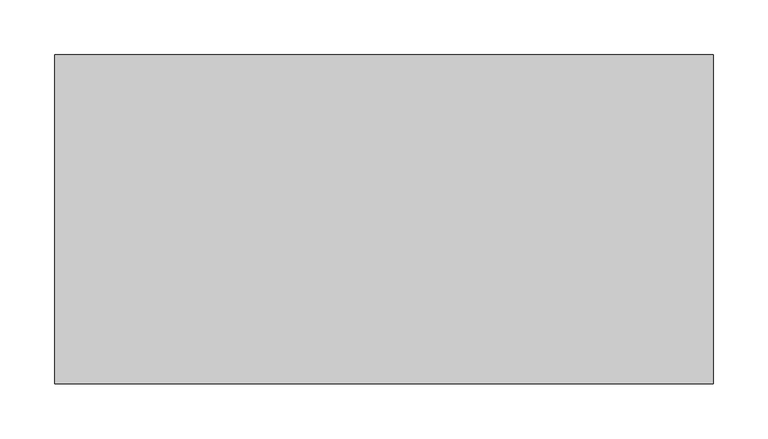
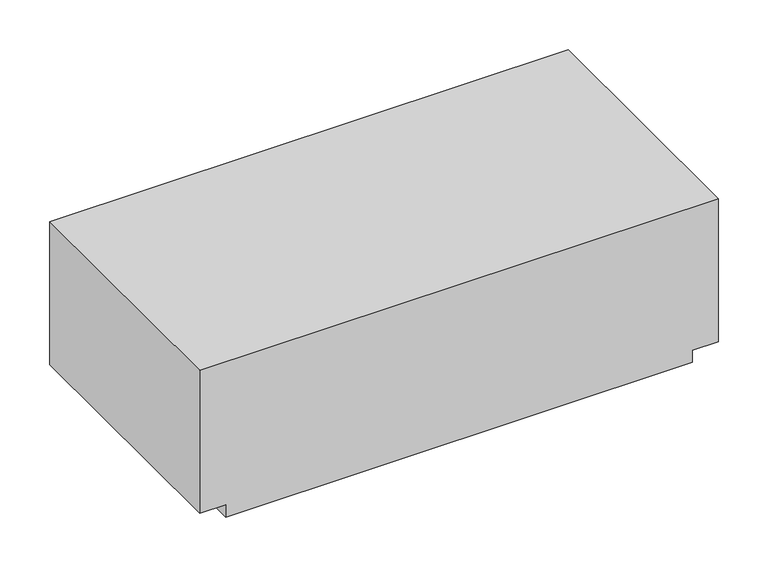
"""IFC4 building model written with IfcOpenShell, lengths in millimetres: proxy geometry, Módulo Laje de Concreto Celular com Friso - Celucon : MLCC friso 19x30x60cm (A x B x C)."""

from ifc_helpers import new_model, si_unit, frame, origin, place, context, project, spatial, polyline, outline, extrude, source, transform, mapped, element, save


def generic_models_ba2a04ef(model_context):
    return source(origin(), model_context, "Body", "SweptSolid", [
        extrude(outline(polyline([(190.0, 300.0), (190.0, -300.0), (15.0, -300.0), (15.0, -270.0), (0.0, -270.0), (0.0, 270.0), (15.0, 270.0), (15.0, 300.0), (190.0, 300.0)])), frame((0.0, -150.0, 0.0), z_axis=(0.0, 1.0, 0.0), x_axis=(0.0, 0.0, 1.0)), (0.0, 0.0, 1.0), 300.0),
    ])


if __name__ == "__main__":
    model = new_model("IFC4")
    model_context = context("Model", 3, world=origin())
    ifc_project = project(units=[si_unit("LENGTHUNIT", "METRE", prefix="MILLI")], contexts=[model_context])
    site = spatial("IfcSite", under=ifc_project)
    building = spatial("IfcBuilding", under=site)
    placement = place(None, origin())
    generic_models_shape = generic_models_ba2a04ef(model_context)
    element("IfcBuildingElementProxy", 1, Name="Módulo Laje de Concreto Celular com Friso - Celucon : MLCC friso 19x30x60cm (A x B x C)", ObjectType="Módulo Laje de Concreto Celular com Friso - Celucon : MLCC friso 19x30x60cm (A x B x C)", at=placement, inside=building, context=model_context, shape_type="MappedRepresentation", body=[
        mapped(generic_models_shape, transform((0.0, 0.0, 0.0), x_axis=(1.0, 0.0, 0.0), y_axis=(0.0, 1.0, 0.0), z_axis=(0.0, 0.0, 1.0))),
    ])
    save(model, "model.ifc")
